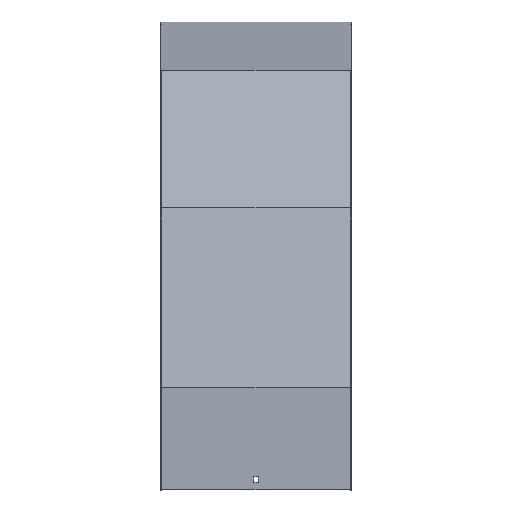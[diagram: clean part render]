
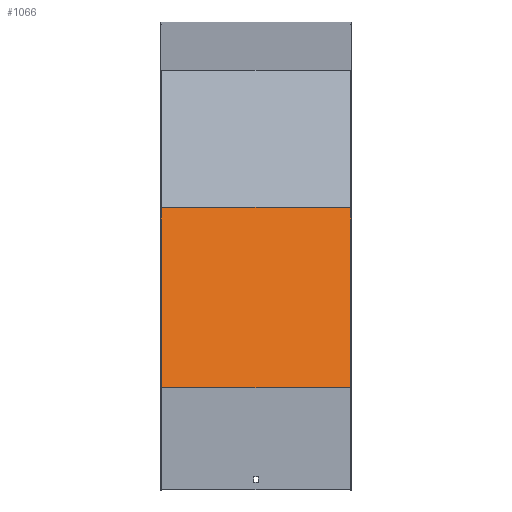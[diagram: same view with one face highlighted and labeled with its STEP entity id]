
A CAD part, top view. The second image highlights one B-rep face of the part: STEP entity #1066.
In plain terms, the highlighted planar face has unit normal (0, 0.259, 0.966).
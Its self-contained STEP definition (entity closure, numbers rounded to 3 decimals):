
#48 = DIRECTION ( 'NONE',  ( 0., -0.259, -0.966 ) ) ;
#51 = ORIENTED_EDGE ( 'NONE', *, *, #727, .T. ) ;
#64 = CARTESIAN_POINT ( 'NONE',  ( -151.5, -281.047, 669.896 ) ) ;
#100 = CARTESIAN_POINT ( 'NONE',  ( 151.5, -562.743, 745.376 ) ) ;
#140 = FACE_OUTER_BOUND ( 'NONE', #917, .T. ) ;
#167 = EDGE_CURVE ( 'NONE', #599, #538, #358, .T. ) ;
#184 = VECTOR ( 'NONE', #325, 1000. ) ;
#185 = VECTOR ( 'NONE', #967, 1000. ) ;
#192 = CARTESIAN_POINT ( 'NONE',  ( 151.5, -281.047, 669.896 ) ) ;
#229 = LINE ( 'NONE', #64, #184 ) ;
#298 = DIRECTION ( 'NONE',  ( 0., 0.966, -0.259 ) ) ;
#325 = DIRECTION ( 'NONE',  ( 0., -0.966, 0.259 ) ) ;
#328 = LINE ( 'NONE', #480, #645 ) ;
#358 = LINE ( 'NONE', #192, #706 ) ;
#384 = CARTESIAN_POINT ( 'NONE',  ( 151.5, -275.871, 668.509 ) ) ;
#393 = ORIENTED_EDGE ( 'NONE', *, *, #492, .F. ) ;
#412 = PLANE ( 'NONE',  #516 ) ;
#459 = LINE ( 'NONE', #100, #185 ) ;
#467 = DIRECTION ( 'NONE',  ( 0., -0.966, 0.259 ) ) ;
#480 = CARTESIAN_POINT ( 'NONE',  ( 151.5, -275.871, 668.509 ) ) ;
#492 = EDGE_CURVE ( 'NONE', #538, #701, #459, .T. ) ;
#502 = ORIENTED_EDGE ( 'NONE', *, *, #167, .F. ) ;
#516 = AXIS2_PLACEMENT_3D ( 'NONE', #1067, #48, #298 ) ;
#538 = VERTEX_POINT ( 'NONE', #936 ) ;
#599 = VERTEX_POINT ( 'NONE', #384 ) ;
#645 = VECTOR ( 'NONE', #923, 1000. ) ;
#701 = VERTEX_POINT ( 'NONE', #759 ) ;
#706 = VECTOR ( 'NONE', #467, 1000. ) ;
#727 = EDGE_CURVE ( 'NONE', #1117, #701, #229, .T. ) ;
#759 = CARTESIAN_POINT ( 'NONE',  ( -151.5, -562.743, 745.376 ) ) ;
#769 = EDGE_CURVE ( 'NONE', #599, #1117, #328, .T. ) ;
#917 = EDGE_LOOP ( 'NONE', ( #51, #393, #502, #997 ) ) ;
#923 = DIRECTION ( 'NONE',  ( -1., 0., 0. ) ) ;
#936 = CARTESIAN_POINT ( 'NONE',  ( 151.5, -562.743, 745.376 ) ) ;
#967 = DIRECTION ( 'NONE',  ( -1., 0., 0. ) ) ;
#993 = CARTESIAN_POINT ( 'NONE',  ( -151.5, -275.871, 668.509 ) ) ;
#997 = ORIENTED_EDGE ( 'NONE', *, *, #769, .T. ) ;
#1066 = ADVANCED_FACE ( 'NONE', ( #140 ), #412, .F. ) ;
#1067 = CARTESIAN_POINT ( 'NONE',  ( 151.5, -281.047, 669.896 ) ) ;
#1117 = VERTEX_POINT ( 'NONE', #993 ) ;
